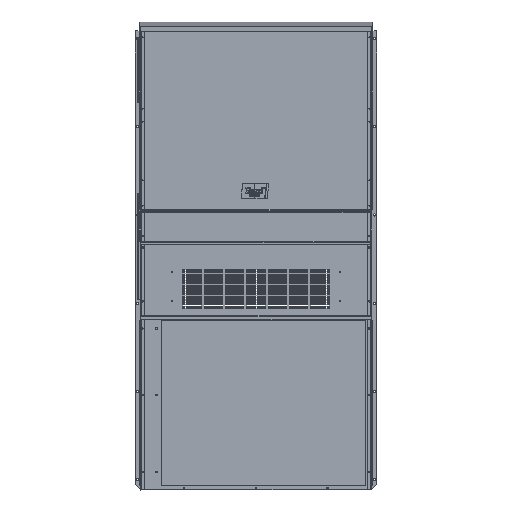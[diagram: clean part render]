
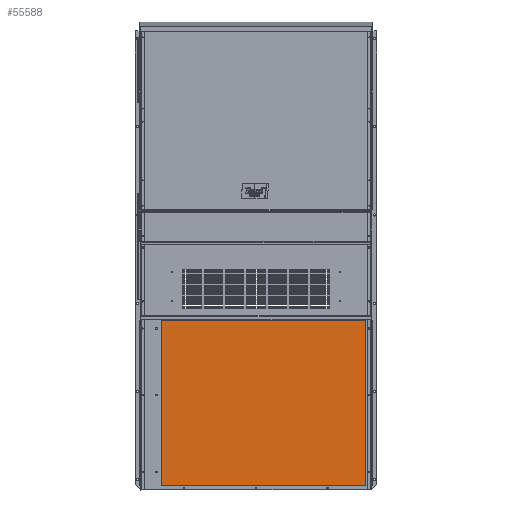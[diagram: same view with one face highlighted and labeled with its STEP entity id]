
A CAD part, top view. The second image highlights one B-rep face of the part: STEP entity #55588.
In plain terms, the highlighted planar face has unit normal (0, 0, 1).
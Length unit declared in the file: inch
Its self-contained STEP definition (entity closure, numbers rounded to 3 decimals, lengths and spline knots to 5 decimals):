
#3387 = DIRECTION ( 'NONE',  ( -1., 0., 0. ) ) ;
#7658 = DIRECTION ( 'NONE',  ( 0., -1., 0. ) ) ;
#7866 = VERTEX_POINT ( 'NONE', #107215 ) ;
#8794 = LINE ( 'NONE', #51006, #108727 ) ;
#19292 = EDGE_CURVE ( 'NONE', #25628, #121811, #86035, .T. ) ;
#19299 = EDGE_CURVE ( 'NONE', #43746, #7866, #8794, .T. ) ;
#22355 = CARTESIAN_POINT ( 'NONE',  ( -17.20926, 0.79656, 0.14022 ) ) ;
#25628 = VERTEX_POINT ( 'NONE', #60017 ) ;
#35085 = LINE ( 'NONE', #22355, #83604 ) ;
#43746 = VERTEX_POINT ( 'NONE', #48658 ) ;
#48658 = CARTESIAN_POINT ( 'NONE',  ( 19.86354, 30.84656, 0.14022 ) ) ;
#50586 = CARTESIAN_POINT ( 'NONE',  ( -17.20926, 30.84656, 0.14022 ) ) ;
#51006 = CARTESIAN_POINT ( 'NONE',  ( 19.86354, 0.79656, 0.14022 ) ) ;
#53593 = CARTESIAN_POINT ( 'NONE',  ( -17.20926, 30.84656, 0.14022 ) ) ;
#54898 = FACE_OUTER_BOUND ( 'NONE', #107851, .T. ) ;
#55588 = ADVANCED_FACE ( 'NONE', ( #54898 ), #74908, .T. ) ;
#55954 = EDGE_CURVE ( 'NONE', #7866, #25628, #35085, .T. ) ;
#60017 = CARTESIAN_POINT ( 'NONE',  ( -17.20926, 0.79656, 0.14022 ) ) ;
#60225 = VECTOR ( 'NONE', #79810, 39.37008 ) ;
#61266 = ORIENTED_EDGE ( 'NONE', *, *, #55954, .F. ) ;
#65545 = DIRECTION ( 'NONE',  ( 0., 0., 1. ) ) ;
#68421 = AXIS2_PLACEMENT_3D ( 'NONE', #123618, #65545, #7658 ) ;
#68763 = CARTESIAN_POINT ( 'NONE',  ( 19.86354, 30.84656, 0.14022 ) ) ;
#72755 = ORIENTED_EDGE ( 'NONE', *, *, #19292, .F. ) ;
#74908 = PLANE ( 'NONE',  #68421 ) ;
#79810 = DIRECTION ( 'NONE',  ( 0., 1., 0. ) ) ;
#83604 = VECTOR ( 'NONE', #3387, 39.37008 ) ;
#86035 = LINE ( 'NONE', #50586, #60225 ) ;
#95293 = EDGE_CURVE ( 'NONE', #121811, #43746, #97689, .T. ) ;
#97689 = LINE ( 'NONE', #68763, #120445 ) ;
#98002 = DIRECTION ( 'NONE',  ( 1., 0., 0. ) ) ;
#107215 = CARTESIAN_POINT ( 'NONE',  ( 19.86354, 0.79656, 0.14022 ) ) ;
#107851 = EDGE_LOOP ( 'NONE', ( #109407, #72755, #61266, #118924 ) ) ;
#108727 = VECTOR ( 'NONE', #118748, 39.37008 ) ;
#109407 = ORIENTED_EDGE ( 'NONE', *, *, #95293, .F. ) ;
#118748 = DIRECTION ( 'NONE',  ( 0., -1., 0. ) ) ;
#118924 = ORIENTED_EDGE ( 'NONE', *, *, #19299, .F. ) ;
#120445 = VECTOR ( 'NONE', #98002, 39.37008 ) ;
#121811 = VERTEX_POINT ( 'NONE', #53593 ) ;
#123618 = CARTESIAN_POINT ( 'NONE',  ( -21.33046, 31.42901, 0.14022 ) ) ;
